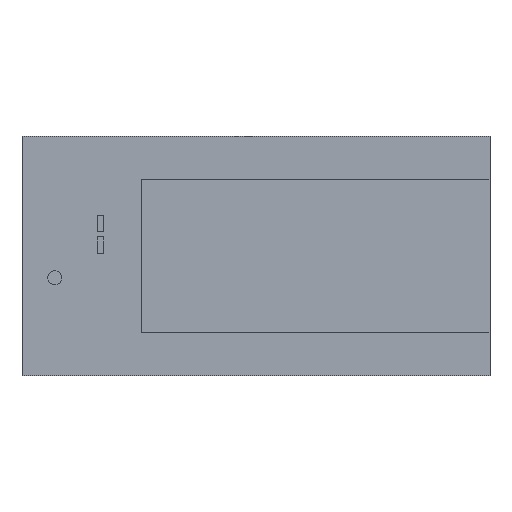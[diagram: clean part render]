
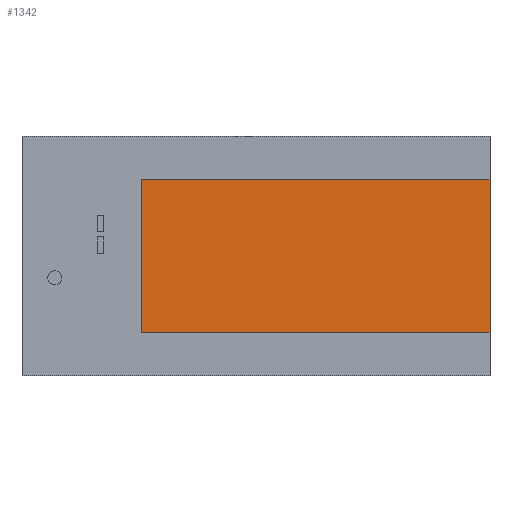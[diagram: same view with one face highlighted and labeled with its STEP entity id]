
A CAD part, top view. The second image highlights one B-rep face of the part: STEP entity #1342.
In plain terms, the highlighted planar face has unit normal (0, 0, 1).
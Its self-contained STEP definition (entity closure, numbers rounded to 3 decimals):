
#44 = PLANE('',#45);
#45 = AXIS2_PLACEMENT_3D('',#46,#47,#48);
#46 = CARTESIAN_POINT('',(-16.,-11.,0.));
#47 = DIRECTION('',(1.,0.,-0.));
#48 = DIRECTION('',(0.,0.,1.));
#71 = PLANE('',#72);
#72 = AXIS2_PLACEMENT_3D('',#73,#74,#75);
#73 = CARTESIAN_POINT('',(-16.,4.,3.));
#74 = DIRECTION('',(0.,-0.707,0.707));
#75 = DIRECTION('',(0.,0.707,0.707));
#99 = PLANE('',#100);
#100 = AXIS2_PLACEMENT_3D('',#101,#102,#103);
#101 = CARTESIAN_POINT('',(16.,-11.,0.));
#102 = DIRECTION('',(1.,0.,-0.));
#103 = DIRECTION('',(0.,0.,1.));
#232 = PLANE('',#233);
#233 = AXIS2_PLACEMENT_3D('',#234,#235,#236);
#234 = CARTESIAN_POINT('',(-16.,-7.,6.));
#235 = DIRECTION('',(-0.,0.707,0.707));
#236 = DIRECTION('',(0.,0.707,-0.707));
#491 = VERTEX_POINT('',#492);
#492 = CARTESIAN_POINT('',(-16.,-7.,6.));
#515 = VERTEX_POINT('',#516);
#516 = CARTESIAN_POINT('',(-16.,7.,6.));
#537 = EDGE_CURVE('',#515,#491,#538,.T.);
#538 = SURFACE_CURVE('',#539,(#543,#550),.PCURVE_S1.);
#539 = LINE('',#540,#541);
#540 = CARTESIAN_POINT('',(-16.,7.,6.));
#541 = VECTOR('',#542,1.);
#542 = DIRECTION('',(0.,-1.,0.));
#543 = PCURVE('',#44,#544);
#544 = DEFINITIONAL_REPRESENTATION('',(#545),#549);
#545 = LINE('',#546,#547);
#546 = CARTESIAN_POINT('',(6.,-18.));
#547 = VECTOR('',#548,1.);
#548 = DIRECTION('',(0.,1.));
#549 = ( GEOMETRIC_REPRESENTATION_CONTEXT(2) 
PARAMETRIC_REPRESENTATION_CONTEXT() REPRESENTATION_CONTEXT('2D SPACE',''
  ) );
#550 = PCURVE('',#551,#556);
#551 = PLANE('',#552);
#552 = AXIS2_PLACEMENT_3D('',#553,#554,#555);
#553 = CARTESIAN_POINT('',(-16.,7.,6.));
#554 = DIRECTION('',(0.,0.,-1.));
#555 = DIRECTION('',(0.,-1.,0.));
#556 = DEFINITIONAL_REPRESENTATION('',(#557),#561);
#557 = LINE('',#558,#559);
#558 = CARTESIAN_POINT('',(0.,-0.));
#559 = VECTOR('',#560,1.);
#560 = DIRECTION('',(1.,0.));
#561 = ( GEOMETRIC_REPRESENTATION_CONTEXT(2) 
PARAMETRIC_REPRESENTATION_CONTEXT() REPRESENTATION_CONTEXT('2D SPACE',''
  ) );
#568 = VERTEX_POINT('',#569);
#569 = CARTESIAN_POINT('',(16.,7.,6.));
#590 = EDGE_CURVE('',#515,#568,#591,.T.);
#591 = SURFACE_CURVE('',#592,(#596,#603),.PCURVE_S1.);
#592 = LINE('',#593,#594);
#593 = CARTESIAN_POINT('',(-16.,7.,6.));
#594 = VECTOR('',#595,1.);
#595 = DIRECTION('',(1.,0.,0.));
#596 = PCURVE('',#71,#597);
#597 = DEFINITIONAL_REPRESENTATION('',(#598),#602);
#598 = LINE('',#599,#600);
#599 = CARTESIAN_POINT('',(4.243,0.));
#600 = VECTOR('',#601,1.);
#601 = DIRECTION('',(0.,-1.));
#602 = ( GEOMETRIC_REPRESENTATION_CONTEXT(2) 
PARAMETRIC_REPRESENTATION_CONTEXT() REPRESENTATION_CONTEXT('2D SPACE',''
  ) );
#603 = PCURVE('',#551,#604);
#604 = DEFINITIONAL_REPRESENTATION('',(#605),#609);
#605 = LINE('',#606,#607);
#606 = CARTESIAN_POINT('',(0.,-0.));
#607 = VECTOR('',#608,1.);
#608 = DIRECTION('',(0.,-1.));
#609 = ( GEOMETRIC_REPRESENTATION_CONTEXT(2) 
PARAMETRIC_REPRESENTATION_CONTEXT() REPRESENTATION_CONTEXT('2D SPACE',''
  ) );
#615 = EDGE_CURVE('',#491,#616,#618,.T.);
#616 = VERTEX_POINT('',#617);
#617 = CARTESIAN_POINT('',(16.,-7.,6.));
#618 = SURFACE_CURVE('',#619,(#623,#630),.PCURVE_S1.);
#619 = LINE('',#620,#621);
#620 = CARTESIAN_POINT('',(-16.,-7.,6.));
#621 = VECTOR('',#622,1.);
#622 = DIRECTION('',(1.,0.,0.));
#623 = PCURVE('',#232,#624);
#624 = DEFINITIONAL_REPRESENTATION('',(#625),#629);
#625 = LINE('',#626,#627);
#626 = CARTESIAN_POINT('',(0.,0.));
#627 = VECTOR('',#628,1.);
#628 = DIRECTION('',(0.,-1.));
#629 = ( GEOMETRIC_REPRESENTATION_CONTEXT(2) 
PARAMETRIC_REPRESENTATION_CONTEXT() REPRESENTATION_CONTEXT('2D SPACE',''
  ) );
#630 = PCURVE('',#551,#631);
#631 = DEFINITIONAL_REPRESENTATION('',(#632),#636);
#632 = LINE('',#633,#634);
#633 = CARTESIAN_POINT('',(14.,0.));
#634 = VECTOR('',#635,1.);
#635 = DIRECTION('',(0.,-1.));
#636 = ( GEOMETRIC_REPRESENTATION_CONTEXT(2) 
PARAMETRIC_REPRESENTATION_CONTEXT() REPRESENTATION_CONTEXT('2D SPACE',''
  ) );
#738 = EDGE_CURVE('',#568,#616,#739,.T.);
#739 = SURFACE_CURVE('',#740,(#744,#751),.PCURVE_S1.);
#740 = LINE('',#741,#742);
#741 = CARTESIAN_POINT('',(16.,7.,6.));
#742 = VECTOR('',#743,1.);
#743 = DIRECTION('',(0.,-1.,0.));
#744 = PCURVE('',#99,#745);
#745 = DEFINITIONAL_REPRESENTATION('',(#746),#750);
#746 = LINE('',#747,#748);
#747 = CARTESIAN_POINT('',(6.,-18.));
#748 = VECTOR('',#749,1.);
#749 = DIRECTION('',(0.,1.));
#750 = ( GEOMETRIC_REPRESENTATION_CONTEXT(2) 
PARAMETRIC_REPRESENTATION_CONTEXT() REPRESENTATION_CONTEXT('2D SPACE',''
  ) );
#751 = PCURVE('',#551,#752);
#752 = DEFINITIONAL_REPRESENTATION('',(#753),#757);
#753 = LINE('',#754,#755);
#754 = CARTESIAN_POINT('',(0.,-32.));
#755 = VECTOR('',#756,1.);
#756 = DIRECTION('',(1.,0.));
#757 = ( GEOMETRIC_REPRESENTATION_CONTEXT(2) 
PARAMETRIC_REPRESENTATION_CONTEXT() REPRESENTATION_CONTEXT('2D SPACE',''
  ) );
#1342 = ADVANCED_FACE('',(#1343),#551,.F.);
#1343 = FACE_BOUND('',#1344,.F.);
#1344 = EDGE_LOOP('',(#1345,#1346,#1347,#1348));
#1345 = ORIENTED_EDGE('',*,*,#590,.T.);
#1346 = ORIENTED_EDGE('',*,*,#738,.T.);
#1347 = ORIENTED_EDGE('',*,*,#615,.F.);
#1348 = ORIENTED_EDGE('',*,*,#537,.F.);
